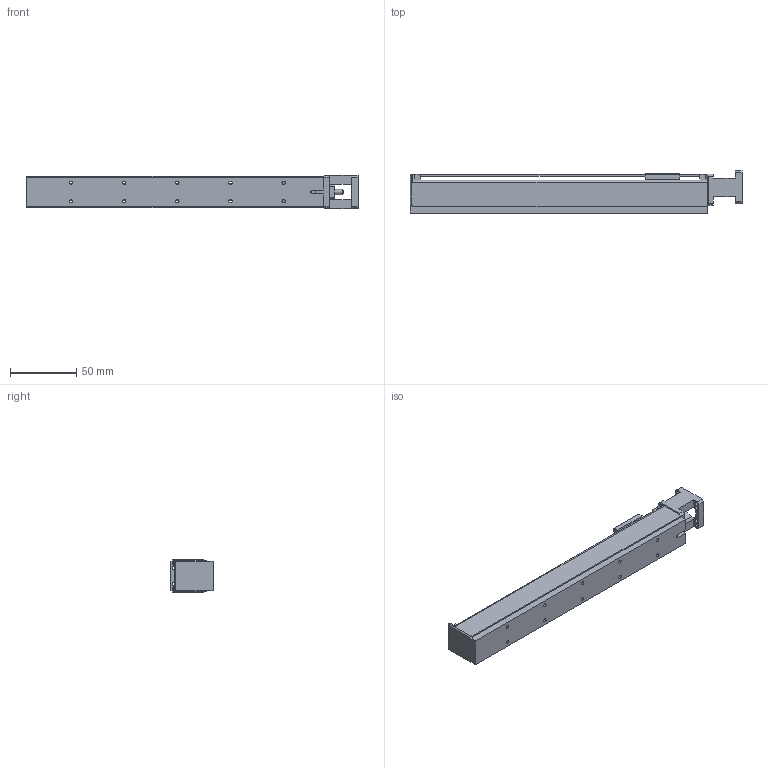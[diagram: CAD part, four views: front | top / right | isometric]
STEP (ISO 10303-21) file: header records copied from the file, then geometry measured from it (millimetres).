
FILE_DESCRIPTION (( 'STEP AP203' ), '1' );
FILE_NAME ('FAS-160.STEP', '2015-08-25T04:53:21', ( '' ), ( '' ), 'SwSTEP 2.0', 'SolidWorks 2015', '' );
FILE_SCHEMA (( 'CONFIG_CONTROL_DESIGN' ));
Length unit declared in the file: millimetre
Products named in the file (1): FAS-160
Bounding box: 250 x 32 x 25 mm (x, y, z)
Volume: 64798.1 mm3; surface area: 48185.8 mm2
Topology: 2 solids, 2 shells, 158 faces, 453 edges, 294 vertices
Faces by surface type: plane 90, cylinder 64, cone 2, sphere 2
Entity records: 5328 total; most frequent: CARTESIAN_POINT 904, DIRECTION 903, ORIENTED_EDGE 902, EDGE_CURVE 451, LINE 317, VECTOR 317, VERTEX_POINT 294, AXIS2_PLACEMENT_3D 293
